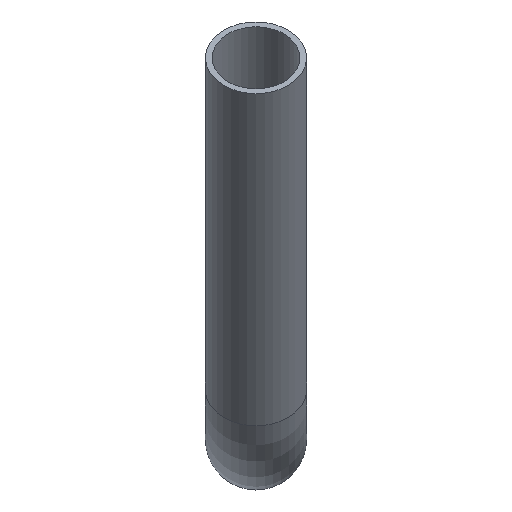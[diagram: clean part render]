
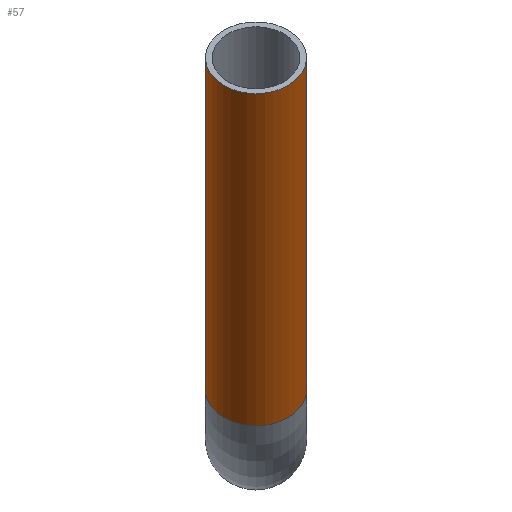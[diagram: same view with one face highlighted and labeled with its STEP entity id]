
A CAD part, front view. The second image highlights one B-rep face of the part: STEP entity #57.
In plain terms, the highlighted cylindrical face has radius 7.5 mm (diameter 15 mm), a full revolution.
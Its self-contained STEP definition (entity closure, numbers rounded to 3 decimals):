
#57=ADVANCED_FACE('',(#97,#99),#101,.T.);
#97=FACE_OUTER_BOUND('',#98,.T.);
#98=EDGE_LOOP('',(#141));
#99=FACE_OUTER_BOUND('',#100,.T.);
#100=EDGE_LOOP('',(#142));
#101=CYLINDRICAL_SURFACE('',#102,7.5);
#102=AXIS2_PLACEMENT_3D('',#103,#104,#105);
#103=CARTESIAN_POINT('',(0.,-7.322,7.322));
#104=DIRECTION('',(0.,-0.707,0.707));
#105=DIRECTION('',(-1.,0.,0.));
#141=ORIENTED_EDGE('',*,*,#153,.T.);
#142=ORIENTED_EDGE('',*,*,#155,.F.);
#153=EDGE_CURVE('',#165,#165,#166,.T.);
#155=EDGE_CURVE('',#169,#169,#170,.T.);
#165=VERTEX_POINT('',#193);
#166=CIRCLE('',#194,7.5);
#169=VERTEX_POINT('',#203);
#170=CIRCLE('',#204,7.5);
#193=CARTESIAN_POINT('',(-7.5,-7.322,7.322));
#194=AXIS2_PLACEMENT_3D('',#195,#196,#197);
#195=CARTESIAN_POINT('',(0.,-7.322,7.322));
#196=DIRECTION('',(0.,-0.707,0.707));
#197=DIRECTION('',(-1.,0.,0.));
#203=CARTESIAN_POINT('',(-7.5,-56.569,56.569));
#204=AXIS2_PLACEMENT_3D('',#205,#206,#207);
#205=CARTESIAN_POINT('',(0.,-56.569,56.569));
#206=DIRECTION('',(0.,-0.707,0.707));
#207=DIRECTION('',(-1.,0.,0.));
